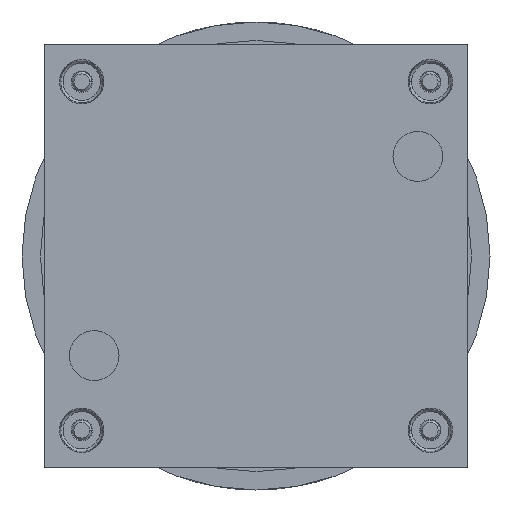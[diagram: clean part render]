
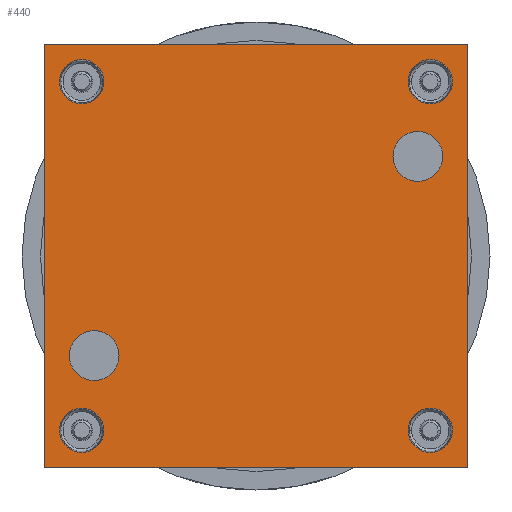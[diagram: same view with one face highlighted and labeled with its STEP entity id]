
A CAD part, front view. The second image highlights one B-rep face of the part: STEP entity #440.
In plain terms, the highlighted planar face has unit normal (0, -1, 0).
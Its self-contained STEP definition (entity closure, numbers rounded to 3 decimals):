
#440 = ADVANCED_FACE( '', ( #869, #870, #871, #872, #873, #874, #875 ), #876, .T. );
#869 = FACE_BOUND( '', #1479, .T. );
#870 = FACE_BOUND( '', #1480, .T. );
#871 = FACE_BOUND( '', #1481, .T. );
#872 = FACE_BOUND( '', #1482, .T. );
#873 = FACE_BOUND( '', #1483, .T. );
#874 = FACE_BOUND( '', #1484, .T. );
#875 = FACE_OUTER_BOUND( '', #1485, .T. );
#876 = PLANE( '', #1486 );
#1479 = EDGE_LOOP( '', ( #2792, #2793 ) );
#1480 = EDGE_LOOP( '', ( #2794, #2795 ) );
#1481 = EDGE_LOOP( '', ( #2796, #2797 ) );
#1482 = EDGE_LOOP( '', ( #2798, #2799 ) );
#1483 = EDGE_LOOP( '', ( #2800, #2801 ) );
#1484 = EDGE_LOOP( '', ( #2802, #2803 ) );
#1485 = EDGE_LOOP( '', ( #2804, #2805, #2806, #2807 ) );
#1486 = AXIS2_PLACEMENT_3D( '', #2808, #2809, #2810 );
#2792 = ORIENTED_EDGE( '', *, *, #4162, .T. );
#2793 = ORIENTED_EDGE( '', *, *, #4158, .T. );
#2794 = ORIENTED_EDGE( '', *, *, #4164, .T. );
#2795 = ORIENTED_EDGE( '', *, *, #4154, .T. );
#2796 = ORIENTED_EDGE( '', *, *, #4152, .T. );
#2797 = ORIENTED_EDGE( '', *, *, #4165, .T. );
#2798 = ORIENTED_EDGE( '', *, *, #4131, .T. );
#2799 = ORIENTED_EDGE( '', *, *, #4174, .T. );
#2800 = ORIENTED_EDGE( '', *, *, #4110, .T. );
#2801 = ORIENTED_EDGE( '', *, *, #4183, .T. );
#2802 = ORIENTED_EDGE( '', *, *, #4089, .T. );
#2803 = ORIENTED_EDGE( '', *, *, #4192, .T. );
#2804 = ORIENTED_EDGE( '', *, *, #4308, .T. );
#2805 = ORIENTED_EDGE( '', *, *, #4355, .F. );
#2806 = ORIENTED_EDGE( '', *, *, #4310, .F. );
#2807 = ORIENTED_EDGE( '', *, *, #4289, .T. );
#2808 = CARTESIAN_POINT( '', ( -42.5, -25.2, 42.5 ) );
#2809 = DIRECTION( '', ( 0., -1., 0. ) );
#2810 = DIRECTION( '', ( -1., 0., 0. ) );
#4089 = EDGE_CURVE( '', #4810, #4812, #4814, .T. );
#4110 = EDGE_CURVE( '', #4849, #4851, #4853, .T. );
#4131 = EDGE_CURVE( '', #4888, #4890, #4892, .T. );
#4152 = EDGE_CURVE( '', #4927, #4929, #4931, .T. );
#4154 = EDGE_CURVE( '', #4935, #4932, #4936, .T. );
#4158 = EDGE_CURVE( '', #4943, #4940, #4944, .T. );
#4162 = EDGE_CURVE( '', #4940, #4943, #4949, .T. );
#4164 = EDGE_CURVE( '', #4932, #4935, #4951, .T. );
#4165 = EDGE_CURVE( '', #4929, #4927, #4952, .T. );
#4174 = EDGE_CURVE( '', #4890, #4888, #4961, .T. );
#4183 = EDGE_CURVE( '', #4851, #4849, #4970, .T. );
#4192 = EDGE_CURVE( '', #4812, #4810, #4979, .T. );
#4289 = EDGE_CURVE( '', #5135, #5133, #5136, .T. );
#4308 = EDGE_CURVE( '', #5133, #5168, #5170, .T. );
#4310 = EDGE_CURVE( '', #5135, #5172, #5173, .T. );
#4355 = EDGE_CURVE( '', #5172, #5168, #5240, .T. );
#4810 = VERTEX_POINT( '', #5949 );
#4812 = VERTEX_POINT( '', #5952 );
#4814 = CIRCLE( '', #5955, 4.451 );
#4849 = VERTEX_POINT( '', #6000 );
#4851 = VERTEX_POINT( '', #6003 );
#4853 = CIRCLE( '', #6006, 4.451 );
#4888 = VERTEX_POINT( '', #6051 );
#4890 = VERTEX_POINT( '', #6054 );
#4892 = CIRCLE( '', #6057, 4.451 );
#4927 = VERTEX_POINT( '', #6102 );
#4929 = VERTEX_POINT( '', #6105 );
#4931 = CIRCLE( '', #6108, 4.451 );
#4932 = VERTEX_POINT( '', #6109 );
#4935 = VERTEX_POINT( '', #6113 );
#4936 = CIRCLE( '', #6114, 5. );
#4940 = VERTEX_POINT( '', #6119 );
#4943 = VERTEX_POINT( '', #6123 );
#4944 = CIRCLE( '', #6124, 5. );
#4949 = CIRCLE( '', #6130, 5. );
#4951 = CIRCLE( '', #6132, 5. );
#4952 = CIRCLE( '', #6133, 4.451 );
#4961 = CIRCLE( '', #6142, 4.451 );
#4970 = CIRCLE( '', #6151, 4.451 );
#4979 = CIRCLE( '', #6160, 4.451 );
#5133 = VERTEX_POINT( '', #6373 );
#5135 = VERTEX_POINT( '', #6376 );
#5136 = LINE( '', #6377, #6378 );
#5168 = VERTEX_POINT( '', #6422 );
#5170 = LINE( '', #6425, #6426 );
#5172 = VERTEX_POINT( '', #6429 );
#5173 = LINE( '', #6430, #6431 );
#5240 = LINE( '', #6536, #6537 );
#5949 = CARTESIAN_POINT( '', ( -30.549, -25.2, -35. ) );
#5952 = CARTESIAN_POINT( '', ( -39.451, -25.2, -35. ) );
#5955 = AXIS2_PLACEMENT_3D( '', #7451, #7452, #7453 );
#6000 = CARTESIAN_POINT( '', ( -30.549, -25.2, 35. ) );
#6003 = CARTESIAN_POINT( '', ( -39.451, -25.2, 35. ) );
#6006 = AXIS2_PLACEMENT_3D( '', #7490, #7491, #7492 );
#6051 = CARTESIAN_POINT( '', ( 39.451, -25.2, 35. ) );
#6054 = CARTESIAN_POINT( '', ( 30.549, -25.2, 35. ) );
#6057 = AXIS2_PLACEMENT_3D( '', #7529, #7530, #7531 );
#6102 = CARTESIAN_POINT( '', ( 39.451, -25.2, -35. ) );
#6105 = CARTESIAN_POINT( '', ( 30.549, -25.2, -35. ) );
#6108 = AXIS2_PLACEMENT_3D( '', #7568, #7569, #7570 );
#6109 = CARTESIAN_POINT( '', ( -27.5, -25.2, -20. ) );
#6113 = CARTESIAN_POINT( '', ( -37.5, -25.2, -20. ) );
#6114 = AXIS2_PLACEMENT_3D( '', #7572, #7573, #7574 );
#6119 = CARTESIAN_POINT( '', ( 37.5, -25.2, 20. ) );
#6123 = CARTESIAN_POINT( '', ( 27.5, -25.2, 20. ) );
#6124 = AXIS2_PLACEMENT_3D( '', #7580, #7581, #7582 );
#6130 = AXIS2_PLACEMENT_3D( '', #7590, #7591, #7592 );
#6132 = AXIS2_PLACEMENT_3D( '', #7596, #7597, #7598 );
#6133 = AXIS2_PLACEMENT_3D( '', #7599, #7600, #7601 );
#6142 = AXIS2_PLACEMENT_3D( '', #7626, #7627, #7628 );
#6151 = AXIS2_PLACEMENT_3D( '', #7653, #7654, #7655 );
#6160 = AXIS2_PLACEMENT_3D( '', #7680, #7681, #7682 );
#6373 = CARTESIAN_POINT( '', ( -42.5, -25.2, -42.5 ) );
#6376 = CARTESIAN_POINT( '', ( -42.5, -25.2, 42.5 ) );
#6377 = CARTESIAN_POINT( '', ( -42.5, -25.2, 42.5 ) );
#6378 = VECTOR( '', #7851, 1. );
#6422 = CARTESIAN_POINT( '', ( 42.5, -25.2, -42.5 ) );
#6425 = CARTESIAN_POINT( '', ( -42.5, -25.2, -42.5 ) );
#6426 = VECTOR( '', #7880, 1. );
#6429 = CARTESIAN_POINT( '', ( 42.5, -25.2, 42.5 ) );
#6430 = CARTESIAN_POINT( '', ( -42.5, -25.2, 42.5 ) );
#6431 = VECTOR( '', #7882, 1. );
#6536 = CARTESIAN_POINT( '', ( 42.5, -25.2, 42.5 ) );
#6537 = VECTOR( '', #7939, 1. );
#7451 = CARTESIAN_POINT( '', ( -35., -25.2, -35. ) );
#7452 = DIRECTION( '', ( 0., 1., 0. ) );
#7453 = DIRECTION( '', ( 1., 0., 0. ) );
#7490 = CARTESIAN_POINT( '', ( -35., -25.2, 35. ) );
#7491 = DIRECTION( '', ( 0., 1., 0. ) );
#7492 = DIRECTION( '', ( 1., 0., 0. ) );
#7529 = CARTESIAN_POINT( '', ( 35., -25.2, 35. ) );
#7530 = DIRECTION( '', ( 0., 1., 0. ) );
#7531 = DIRECTION( '', ( 1., 0., 0. ) );
#7568 = CARTESIAN_POINT( '', ( 35., -25.2, -35. ) );
#7569 = DIRECTION( '', ( 0., 1., 0. ) );
#7570 = DIRECTION( '', ( 1., 0., 0. ) );
#7572 = CARTESIAN_POINT( '', ( -32.5, -25.2, -20. ) );
#7573 = DIRECTION( '', ( 0., 1., 0. ) );
#7574 = DIRECTION( '', ( 1., 0., 0. ) );
#7580 = CARTESIAN_POINT( '', ( 32.5, -25.2, 20. ) );
#7581 = DIRECTION( '', ( 0., 1., 0. ) );
#7582 = DIRECTION( '', ( 1., 0., 0. ) );
#7590 = CARTESIAN_POINT( '', ( 32.5, -25.2, 20. ) );
#7591 = DIRECTION( '', ( 0., 1., 0. ) );
#7592 = DIRECTION( '', ( 1., 0., 0. ) );
#7596 = CARTESIAN_POINT( '', ( -32.5, -25.2, -20. ) );
#7597 = DIRECTION( '', ( 0., 1., 0. ) );
#7598 = DIRECTION( '', ( 1., 0., 0. ) );
#7599 = CARTESIAN_POINT( '', ( 35., -25.2, -35. ) );
#7600 = DIRECTION( '', ( 0., 1., 0. ) );
#7601 = DIRECTION( '', ( 1., 0., 0. ) );
#7626 = CARTESIAN_POINT( '', ( 35., -25.2, 35. ) );
#7627 = DIRECTION( '', ( 0., 1., 0. ) );
#7628 = DIRECTION( '', ( 1., 0., 0. ) );
#7653 = CARTESIAN_POINT( '', ( -35., -25.2, 35. ) );
#7654 = DIRECTION( '', ( 0., 1., 0. ) );
#7655 = DIRECTION( '', ( 1., 0., 0. ) );
#7680 = CARTESIAN_POINT( '', ( -35., -25.2, -35. ) );
#7681 = DIRECTION( '', ( 0., 1., 0. ) );
#7682 = DIRECTION( '', ( 1., 0., 0. ) );
#7851 = DIRECTION( '', ( 0., 0., -1. ) );
#7880 = DIRECTION( '', ( 1., 0., 0. ) );
#7882 = DIRECTION( '', ( 1., 0., 0. ) );
#7939 = DIRECTION( '', ( 0., 0., -1. ) );
